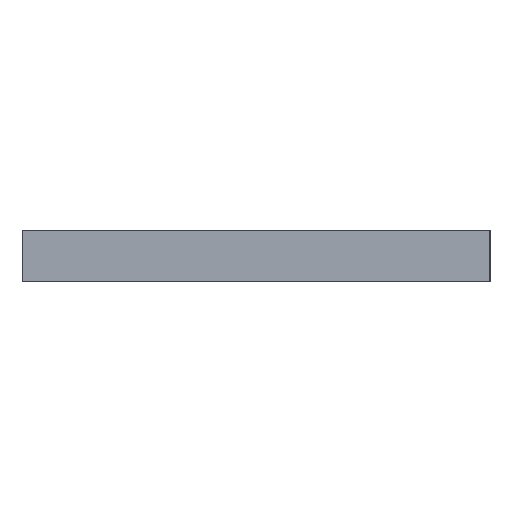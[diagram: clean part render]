
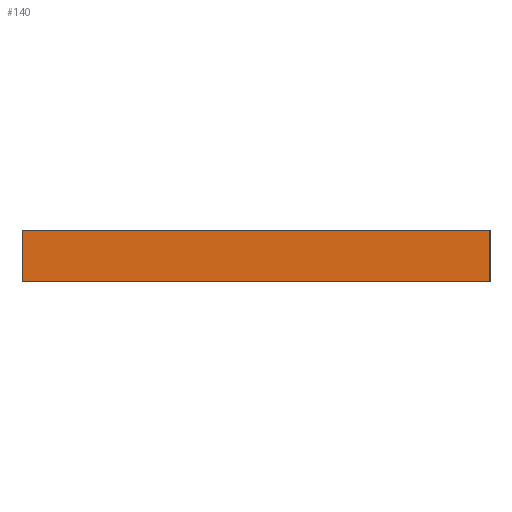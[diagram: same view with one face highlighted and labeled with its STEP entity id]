
A CAD part, left-side view. The second image highlights one B-rep face of the part: STEP entity #140.
In plain terms, the highlighted planar face has unit normal (-1, 0, 0).
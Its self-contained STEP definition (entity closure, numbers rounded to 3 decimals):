
#9 = CARTESIAN_POINT ( 'NONE',  ( -236., -27.5, 6. ) ) ;
#12 = ORIENTED_EDGE ( 'NONE', *, *, #40, .T. ) ;
#29 = DIRECTION ( 'NONE',  ( 0., -1., 0. ) ) ;
#32 = AXIS2_PLACEMENT_3D ( 'NONE', #266, #300, #54 ) ;
#38 = LINE ( 'NONE', #127, #53 ) ;
#40 = EDGE_CURVE ( 'NONE', #136, #384, #50, .T. ) ;
#42 = ORIENTED_EDGE ( 'NONE', *, *, #264, .F. ) ;
#48 = CARTESIAN_POINT ( 'NONE',  ( -236., -27.5, 0. ) ) ;
#50 = LINE ( 'NONE', #237, #147 ) ;
#53 = VECTOR ( 'NONE', #318, 1000. ) ;
#54 = DIRECTION ( 'NONE',  ( 0., 0., -1. ) ) ;
#57 = CARTESIAN_POINT ( 'NONE',  ( -236., 27.5, 0. ) ) ;
#70 = ORIENTED_EDGE ( 'NONE', *, *, #131, .T. ) ;
#126 = VECTOR ( 'NONE', #143, 1000. ) ;
#127 = CARTESIAN_POINT ( 'NONE',  ( -236., -27.5, 6. ) ) ;
#131 = EDGE_CURVE ( 'NONE', #254, #136, #298, .T. ) ;
#136 = VERTEX_POINT ( 'NONE', #57 ) ;
#139 = CARTESIAN_POINT ( 'NONE',  ( -236., 27.5, 6. ) ) ;
#140 = ADVANCED_FACE ( 'NONE', ( #263 ), #369, .F. ) ;
#143 = DIRECTION ( 'NONE',  ( 0., 0., -1. ) ) ;
#147 = VECTOR ( 'NONE', #29, 1000. ) ;
#153 = CARTESIAN_POINT ( 'NONE',  ( -236., -27.5, 6. ) ) ;
#167 = VECTOR ( 'NONE', #312, 1000. ) ;
#237 = CARTESIAN_POINT ( 'NONE',  ( -236., -27.5, 0. ) ) ;
#251 = LINE ( 'NONE', #153, #167 ) ;
#254 = VERTEX_POINT ( 'NONE', #346 ) ;
#260 = ORIENTED_EDGE ( 'NONE', *, *, #361, .F. ) ;
#263 = FACE_OUTER_BOUND ( 'NONE', #379, .T. ) ;
#264 = EDGE_CURVE ( 'NONE', #323, #384, #251, .T. ) ;
#266 = CARTESIAN_POINT ( 'NONE',  ( -236., -27.5, 6. ) ) ;
#298 = LINE ( 'NONE', #139, #126 ) ;
#300 = DIRECTION ( 'NONE',  ( 1., 0., 0. ) ) ;
#312 = DIRECTION ( 'NONE',  ( 0., 0., -1. ) ) ;
#318 = DIRECTION ( 'NONE',  ( 0., -1., 0. ) ) ;
#323 = VERTEX_POINT ( 'NONE', #9 ) ;
#346 = CARTESIAN_POINT ( 'NONE',  ( -236., 27.5, 6. ) ) ;
#361 = EDGE_CURVE ( 'NONE', #254, #323, #38, .T. ) ;
#369 = PLANE ( 'NONE',  #32 ) ;
#379 = EDGE_LOOP ( 'NONE', ( #12, #42, #260, #70 ) ) ;
#384 = VERTEX_POINT ( 'NONE', #48 ) ;
